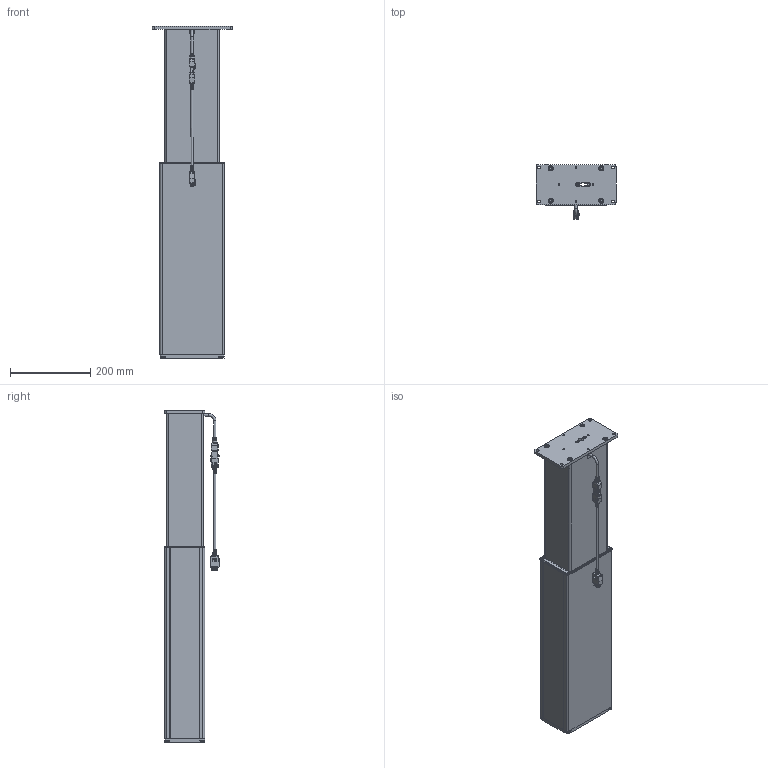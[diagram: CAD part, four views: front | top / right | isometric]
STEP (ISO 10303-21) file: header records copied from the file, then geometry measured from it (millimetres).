
FILE_DESCRIPTION(/* description */ ('Unknown'),/* implementation_level */ '2;1');
FILE_NAME(/* name */ '911.00113_01-ausgefahren',/* time_stamp */ '2026-03-27T08:03:53+01:00',/* author */ ('Unknown'),/* organization */ ('Unknown'),/* preprocessor_version */ 'ST-DEVELOPER v20',/* originating_system */ 'Solid Edge',/* authorisation */ 'Unknown');
FILE_SCHEMA (('AUTOMOTIVE_DESIGN {1 0 10303 214 3 1 1}'));
Length unit declared in the file: millimetre
Products named in the file (16): 911.00113; 126.00191; 119.00588; 119.00579; 126.00193; 124.00201_oa_0; 115.00200_oa_1; 110.00113_oa_2; 142.00303; 142.00241; 142.00154; 142.00039; 128.00078; Kabel Motor Sx; 119.00578; 124.00151
Assembly tree (25 placements, depth 2):
  911.00113
    126.00191
    119.00588  x2
    119.00579  x2
    126.00193
    124.00201_oa_0
    115.00200_oa_1
    110.00113_oa_2
    142.00303  x4
    142.00241  x2
    142.00154  x4
    142.00039  x2
    128.00078
    Kabel Motor Sx
    119.00578
    124.00151
Bounding box: 200 x 137.17 x 830 mm (x, y, z)
Volume: 2432527.7 mm3; surface area: 1290273.2 mm2
Topology: 22 solids, 22 shells, 1679 faces, 4386 edges, 2873 vertices
Faces by surface type: plane 1015, cylinder 450, torus 109, bspline 72, cone 27, sphere 6
Full cylindrical faces by diameter (mm): 1.5 x6, 1.82 x6, 2 x4, 2.7 x6, 4 x2, 4.917 x4, 5 x3, 5.5 x2, 6 x11, 6.2 x4, 6.5 x4, 6.6 x4, 6.647 x4, 7 x2, 10 x2, 12 x4, 21 x1
Entity records: 57652 total; most frequent: CARTESIAN_POINT 11596, ORIENTED_EDGE 7708, DIRECTION 7672, EDGE_CURVE 3854, AXIS2_PLACEMENT_3D 2616, VERTEX_POINT 2580, LINE 2440, VECTOR 2440
